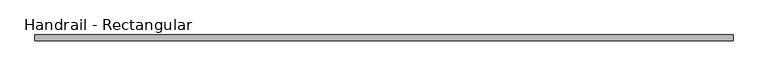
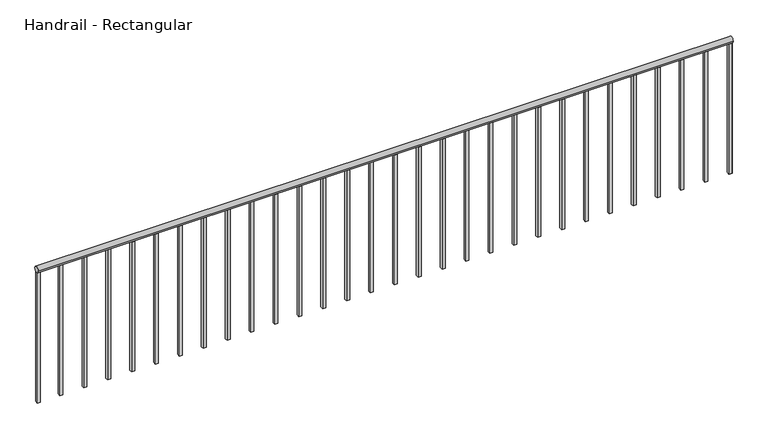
"""IFC4 building model written with IfcOpenShell, lengths in millimetres: railing geometry, Handrail - Rectangular."""

from ifc_helpers import new_model, si_unit, point, frame, frame_2d, origin, place, context, project, spatial, polyline, circle_curve, trimmed, segment, composite_curve, outline, extrude, source, transform, mapped, element, save


def handrail_rectangular_e4eda951(model_context):
    return source(origin(), model_context, "Body", "SweptSolid", [
        extrude(outline(composite_curve([segment(trimmed(circle_curve(frame_2d((11944.8316867, 3943.35)), 19.05), [point((11963.8816867, 3943.35))], [point((11925.7816867, 3943.35))], False, "CARTESIAN"), True, "CONTINUOUS"), segment(trimmed(circle_curve(frame_2d((11944.8316867, 3943.35)), 19.05), [point((11925.7816867, 3943.35))], [point((11963.8816867, 3943.35))], False, "CARTESIAN"), True, "CONTINUOUS")], self_intersect=False)), frame((-3862.3589563, 0.0, 0.0), z_axis=(1.0, 0.0, 0.0), x_axis=(0.0, 1.0, 0.0)), (0.0, 0.0, 1.0), 4432.3),
        extrude(outline(polyline([(547.7160437, 11935.3066867), (547.7160437, 11954.3566867), (566.7660437, 11954.3566867), (566.7660437, 11935.3066867), (547.7160437, 11935.3066867)])), frame((0.0, 0.0, 3048.0), z_axis=(0.0, 0.0, 1.0), x_axis=(1.0, 0.0, 0.0)), (0.0, 0.0, 1.0), 876.3),
        extrude(outline(polyline([(395.3160437, 11935.3066867), (395.3160437, 11954.3566867), (414.3660437, 11954.3566867), (414.3660437, 11935.3066867), (395.3160437, 11935.3066867)])), frame((0.0, 0.0, 3048.0), z_axis=(0.0, 0.0, 1.0), x_axis=(1.0, 0.0, 0.0)), (0.0, 0.0, 1.0), 876.3),
        extrude(outline(polyline([(242.9160437, 11935.3066867), (242.9160437, 11954.3566867), (261.9660437, 11954.3566867), (261.9660437, 11935.3066867), (242.9160437, 11935.3066867)])), frame((0.0, 0.0, 3048.0), z_axis=(0.0, 0.0, 1.0), x_axis=(1.0, 0.0, 0.0)), (0.0, 0.0, 1.0), 876.3),
        extrude(outline(polyline([(90.5160437, 11935.3066867), (90.5160437, 11954.3566867), (109.5660437, 11954.3566867), (109.5660437, 11935.3066867), (90.5160437, 11935.3066867)])), frame((0.0, 0.0, 3048.0), z_axis=(0.0, 0.0, 1.0), x_axis=(1.0, 0.0, 0.0)), (0.0, 0.0, 1.0), 876.3),
        extrude(outline(polyline([(-61.8839563, 11935.3066867), (-61.8839563, 11954.3566867), (-42.8339563, 11954.3566867), (-42.8339563, 11935.3066867), (-61.8839563, 11935.3066867)])), frame((0.0, 0.0, 3048.0), z_axis=(0.0, 0.0, 1.0), x_axis=(1.0, 0.0, 0.0)), (0.0, 0.0, 1.0), 876.3),
        extrude(outline(polyline([(-214.2839563, 11935.3066867), (-214.2839563, 11954.3566867), (-195.2339563, 11954.3566867), (-195.2339563, 11935.3066867), (-214.2839563, 11935.3066867)])), frame((0.0, 0.0, 3048.0), z_axis=(0.0, 0.0, 1.0), x_axis=(1.0, 0.0, 0.0)), (0.0, 0.0, 1.0), 876.3),
        extrude(outline(polyline([(-366.6839563, 11935.3066867), (-366.6839563, 11954.3566867), (-347.6339563, 11954.3566867), (-347.6339563, 11935.3066867), (-366.6839563, 11935.3066867)])), frame((0.0, 0.0, 3048.0), z_axis=(0.0, 0.0, 1.0), x_axis=(1.0, 0.0, 0.0)), (0.0, 0.0, 1.0), 876.3),
        extrude(outline(polyline([(-519.0839563, 11935.3066867), (-519.0839563, 11954.3566867), (-500.0339563, 11954.3566867), (-500.0339563, 11935.3066867), (-519.0839563, 11935.3066867)])), frame((0.0, 0.0, 3048.0), z_axis=(0.0, 0.0, 1.0), x_axis=(1.0, 0.0, 0.0)), (0.0, 0.0, 1.0), 876.3),
        extrude(outline(polyline([(-671.4839563, 11935.3066867), (-671.4839563, 11954.3566867), (-652.4339563, 11954.3566867), (-652.4339563, 11935.3066867), (-671.4839563, 11935.3066867)])), frame((0.0, 0.0, 3048.0), z_axis=(0.0, 0.0, 1.0), x_axis=(1.0, 0.0, 0.0)), (0.0, 0.0, 1.0), 876.3),
        extrude(outline(polyline([(-823.8839563, 11935.3066867), (-823.8839563, 11954.3566867), (-804.8339563, 11954.3566867), (-804.8339563, 11935.3066867), (-823.8839563, 11935.3066867)])), frame((0.0, 0.0, 3048.0), z_axis=(0.0, 0.0, 1.0), x_axis=(1.0, 0.0, 0.0)), (0.0, 0.0, 1.0), 876.3),
        extrude(outline(polyline([(-976.2839563, 11935.3066867), (-976.2839563, 11954.3566867), (-957.2339563, 11954.3566867), (-957.2339563, 11935.3066867), (-976.2839563, 11935.3066867)])), frame((0.0, 0.0, 3048.0), z_axis=(0.0, 0.0, 1.0), x_axis=(1.0, 0.0, 0.0)), (0.0, 0.0, 1.0), 876.3),
        extrude(outline(polyline([(-1128.6839563, 11935.3066867), (-1128.6839563, 11954.3566867), (-1109.6339563, 11954.3566867), (-1109.6339563, 11935.3066867), (-1128.6839563, 11935.3066867)])), frame((0.0, 0.0, 3048.0), z_axis=(0.0, 0.0, 1.0), x_axis=(1.0, 0.0, 0.0)), (0.0, 0.0, 1.0), 876.3),
        extrude(outline(polyline([(-1281.0839563, 11935.3066867), (-1281.0839563, 11954.3566867), (-1262.0339563, 11954.3566867), (-1262.0339563, 11935.3066867), (-1281.0839563, 11935.3066867)])), frame((0.0, 0.0, 3048.0), z_axis=(0.0, 0.0, 1.0), x_axis=(1.0, 0.0, 0.0)), (0.0, 0.0, 1.0), 876.3),
        extrude(outline(polyline([(-1433.4839563, 11935.3066867), (-1433.4839563, 11954.3566867), (-1414.4339563, 11954.3566867), (-1414.4339563, 11935.3066867), (-1433.4839563, 11935.3066867)])), frame((0.0, 0.0, 3048.0), z_axis=(0.0, 0.0, 1.0), x_axis=(1.0, 0.0, 0.0)), (0.0, 0.0, 1.0), 876.3),
        extrude(outline(polyline([(-1585.8839563, 11935.3066867), (-1585.8839563, 11954.3566867), (-1566.8339563, 11954.3566867), (-1566.8339563, 11935.3066867), (-1585.8839563, 11935.3066867)])), frame((0.0, 0.0, 3048.0), z_axis=(0.0, 0.0, 1.0), x_axis=(1.0, 0.0, 0.0)), (0.0, 0.0, 1.0), 876.3),
        extrude(outline(polyline([(-1738.2839563, 11935.3066867), (-1738.2839563, 11954.3566867), (-1719.2339563, 11954.3566867), (-1719.2339563, 11935.3066867), (-1738.2839563, 11935.3066867)])), frame((0.0, 0.0, 3048.0), z_axis=(0.0, 0.0, 1.0), x_axis=(1.0, 0.0, 0.0)), (0.0, 0.0, 1.0), 876.3),
        extrude(outline(polyline([(-1890.6839563, 11935.3066867), (-1890.6839563, 11954.3566867), (-1871.6339563, 11954.3566867), (-1871.6339563, 11935.3066867), (-1890.6839563, 11935.3066867)])), frame((0.0, 0.0, 3048.0), z_axis=(0.0, 0.0, 1.0), x_axis=(1.0, 0.0, 0.0)), (0.0, 0.0, 1.0), 876.3),
        extrude(outline(polyline([(-2043.0839563, 11935.3066867), (-2043.0839563, 11954.3566867), (-2024.0339563, 11954.3566867), (-2024.0339563, 11935.3066867), (-2043.0839563, 11935.3066867)])), frame((0.0, 0.0, 3048.0), z_axis=(0.0, 0.0, 1.0), x_axis=(1.0, 0.0, 0.0)), (0.0, 0.0, 1.0), 876.3),
        extrude(outline(polyline([(-2195.4839563, 11935.3066867), (-2195.4839563, 11954.3566867), (-2176.4339563, 11954.3566867), (-2176.4339563, 11935.3066867), (-2195.4839563, 11935.3066867)])), frame((0.0, 0.0, 3048.0), z_axis=(0.0, 0.0, 1.0), x_axis=(1.0, 0.0, 0.0)), (0.0, 0.0, 1.0), 876.3),
        extrude(outline(polyline([(-2347.8839563, 11935.3066867), (-2347.8839563, 11954.3566867), (-2328.8339563, 11954.3566867), (-2328.8339563, 11935.3066867), (-2347.8839563, 11935.3066867)])), frame((0.0, 0.0, 3048.0), z_axis=(0.0, 0.0, 1.0), x_axis=(1.0, 0.0, 0.0)), (0.0, 0.0, 1.0), 876.3),
        extrude(outline(polyline([(-2500.2839563, 11935.3066867), (-2500.2839563, 11954.3566867), (-2481.2339563, 11954.3566867), (-2481.2339563, 11935.3066867), (-2500.2839563, 11935.3066867)])), frame((0.0, 0.0, 3048.0), z_axis=(0.0, 0.0, 1.0), x_axis=(1.0, 0.0, 0.0)), (0.0, 0.0, 1.0), 876.3),
        extrude(outline(polyline([(-2652.6839563, 11935.3066867), (-2652.6839563, 11954.3566867), (-2633.6339563, 11954.3566867), (-2633.6339563, 11935.3066867), (-2652.6839563, 11935.3066867)])), frame((0.0, 0.0, 3048.0), z_axis=(0.0, 0.0, 1.0), x_axis=(1.0, 0.0, 0.0)), (0.0, 0.0, 1.0), 876.3),
        extrude(outline(polyline([(-2805.0839563, 11935.3066867), (-2805.0839563, 11954.3566867), (-2786.0339563, 11954.3566867), (-2786.0339563, 11935.3066867), (-2805.0839563, 11935.3066867)])), frame((0.0, 0.0, 3048.0), z_axis=(0.0, 0.0, 1.0), x_axis=(1.0, 0.0, 0.0)), (0.0, 0.0, 1.0), 876.3),
        extrude(outline(polyline([(-2957.4839563, 11935.3066867), (-2957.4839563, 11954.3566867), (-2938.4339563, 11954.3566867), (-2938.4339563, 11935.3066867), (-2957.4839563, 11935.3066867)])), frame((0.0, 0.0, 3048.0), z_axis=(0.0, 0.0, 1.0), x_axis=(1.0, 0.0, 0.0)), (0.0, 0.0, 1.0), 876.3),
        extrude(outline(polyline([(-3109.8839563, 11935.3066867), (-3109.8839563, 11954.3566867), (-3090.8339563, 11954.3566867), (-3090.8339563, 11935.3066867), (-3109.8839563, 11935.3066867)])), frame((0.0, 0.0, 3048.0), z_axis=(0.0, 0.0, 1.0), x_axis=(1.0, 0.0, 0.0)), (0.0, 0.0, 1.0), 876.3),
        extrude(outline(polyline([(-3262.2839563, 11935.3066867), (-3262.2839563, 11954.3566867), (-3243.2339563, 11954.3566867), (-3243.2339563, 11935.3066867), (-3262.2839563, 11935.3066867)])), frame((0.0, 0.0, 3048.0), z_axis=(0.0, 0.0, 1.0), x_axis=(1.0, 0.0, 0.0)), (0.0, 0.0, 1.0), 876.3),
        extrude(outline(polyline([(-3414.6839563, 11935.3066867), (-3414.6839563, 11954.3566867), (-3395.6339563, 11954.3566867), (-3395.6339563, 11935.3066867), (-3414.6839563, 11935.3066867)])), frame((0.0, 0.0, 3048.0), z_axis=(0.0, 0.0, 1.0), x_axis=(1.0, 0.0, 0.0)), (0.0, 0.0, 1.0), 876.3),
        extrude(outline(polyline([(-3567.0839563, 11935.3066867), (-3567.0839563, 11954.3566867), (-3548.0339563, 11954.3566867), (-3548.0339563, 11935.3066867), (-3567.0839563, 11935.3066867)])), frame((0.0, 0.0, 3048.0), z_axis=(0.0, 0.0, 1.0), x_axis=(1.0, 0.0, 0.0)), (0.0, 0.0, 1.0), 876.3),
        extrude(outline(polyline([(-3719.4839563, 11935.3066867), (-3719.4839563, 11954.3566867), (-3700.4339563, 11954.3566867), (-3700.4339563, 11935.3066867), (-3719.4839563, 11935.3066867)])), frame((0.0, 0.0, 3048.0), z_axis=(0.0, 0.0, 1.0), x_axis=(1.0, 0.0, 0.0)), (0.0, 0.0, 1.0), 876.3),
        extrude(outline(polyline([(550.8910437, 11935.3066867), (550.8910437, 11954.3566867), (569.9410437, 11954.3566867), (569.9410437, 11935.3066867), (550.8910437, 11935.3066867)])), frame((0.0, 0.0, 3048.0), z_axis=(0.0, 0.0, 1.0), x_axis=(1.0, 0.0, 0.0)), (0.0, 0.0, 1.0), 876.3),
        extrude(outline(polyline([(-3862.3589563, 11935.3066867), (-3862.3589563, 11954.3566867), (-3843.3089563, 11954.3566867), (-3843.3089563, 11935.3066867), (-3862.3589563, 11935.3066867)])), frame((0.0, 0.0, 3048.0), z_axis=(0.0, 0.0, 1.0), x_axis=(1.0, 0.0, 0.0)), (0.0, 0.0, 1.0), 876.3),
    ])


if __name__ == "__main__":
    model = new_model("IFC4")
    model_context = context("Model", 3, world=origin())
    ifc_project = project(units=[si_unit("LENGTHUNIT", "METRE", prefix="MILLI")], contexts=[model_context])
    site = spatial("IfcSite", under=ifc_project)
    building = spatial("IfcBuilding", under=site)
    placement = place(None, origin())
    handrail_rectangular_shape = handrail_rectangular_e4eda951(model_context)
    element("IfcRailing", 1, ObjectType="Handrail - Rectangular", at=placement, inside=building, context=model_context, shape_type="MappedRepresentation", body=[
        mapped(handrail_rectangular_shape, transform((0.0, 0.0, 0.0), x_axis=(1.0, 0.0, 0.0), y_axis=(0.0, 1.0, 0.0), z_axis=(0.0, 0.0, 1.0))),
    ])
    save(model, "model.ifc")
